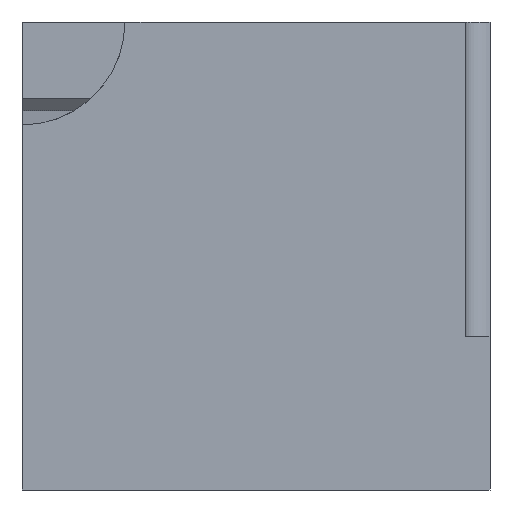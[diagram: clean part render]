
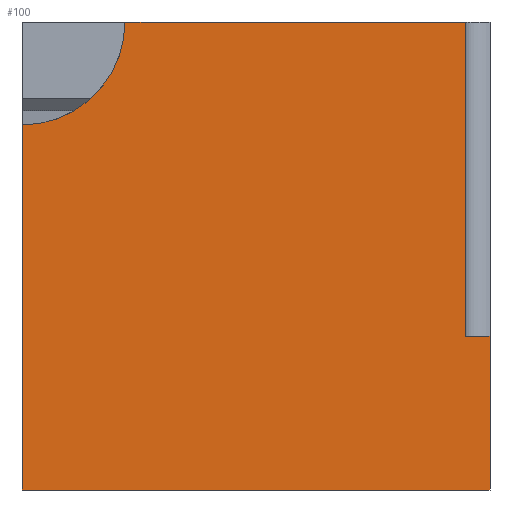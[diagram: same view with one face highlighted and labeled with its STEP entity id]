
A CAD part, front view. The second image highlights one B-rep face of the part: STEP entity #100.
In plain terms, the highlighted planar face has unit normal (0, -1, 0).
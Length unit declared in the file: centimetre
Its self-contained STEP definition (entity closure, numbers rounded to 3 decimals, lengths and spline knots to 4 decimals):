
#24 = VERTEX_POINT ( 'NONE', #357 ) ;
#41 = LINE ( 'NONE', #297, #165 ) ;
#43 = DIRECTION ( 'NONE',  ( 0., 1., 0. ) ) ;
#45 = CARTESIAN_POINT ( 'NONE',  ( 1000., 0., 328.0001 ) ) ;
#49 = DIRECTION ( 'NONE',  ( 0., 0., -1. ) ) ;
#59 = VERTEX_POINT ( 'NONE', #621 ) ;
#63 = EDGE_CURVE ( 'NONE', #24, #460, #41, .T. ) ;
#100 = ADVANCED_FACE ( 'NONE', ( #765 ), #824, .F. ) ;
#148 = LINE ( 'NONE', #669, #710 ) ;
#156 = CIRCLE ( 'NONE', #260, 220.0587 ) ;
#165 = VECTOR ( 'NONE', #685, 100. ) ;
#170 = LINE ( 'NONE', #248, #814 ) ;
#179 = DIRECTION ( 'NONE',  ( 0., 0., 1. ) ) ;
#191 = ORIENTED_EDGE ( 'NONE', *, *, #356, .F. ) ;
#223 = ORIENTED_EDGE ( 'NONE', *, *, #836, .T. ) ;
#239 = LINE ( 'NONE', #424, #316 ) ;
#248 = CARTESIAN_POINT ( 'NONE',  ( 0., 0., 1000. ) ) ;
#260 = AXIS2_PLACEMENT_3D ( 'NONE', #583, #329, #523 ) ;
#276 = ORIENTED_EDGE ( 'NONE', *, *, #781, .F. ) ;
#288 = CARTESIAN_POINT ( 'NONE',  ( 0., 0., 1000. ) ) ;
#297 = CARTESIAN_POINT ( 'NONE',  ( 0., 0., 0. ) ) ;
#316 = VECTOR ( 'NONE', #495, 100. ) ;
#321 = EDGE_CURVE ( 'NONE', #462, #394, #412, .T. ) ;
#322 = AXIS2_PLACEMENT_3D ( 'NONE', #288, #43, #701 ) ;
#329 = DIRECTION ( 'NONE',  ( 0., -1., 0. ) ) ;
#330 = EDGE_CURVE ( 'NONE', #462, #59, #148, .T. ) ;
#356 = EDGE_CURVE ( 'NONE', #739, #59, #170, .T. ) ;
#357 = CARTESIAN_POINT ( 'NONE',  ( 0., 0., 0. ) ) ;
#366 = CARTESIAN_POINT ( 'NONE',  ( 947.161, 0., 328.0001 ) ) ;
#394 = VERTEX_POINT ( 'NONE', #45 ) ;
#398 = ORIENTED_EDGE ( 'NONE', *, *, #528, .F. ) ;
#412 = LINE ( 'NONE', #559, #603 ) ;
#424 = CARTESIAN_POINT ( 'NONE',  ( 1000., 0., 1000. ) ) ;
#433 = LINE ( 'NONE', #637, #794 ) ;
#460 = VERTEX_POINT ( 'NONE', #496 ) ;
#462 = VERTEX_POINT ( 'NONE', #366 ) ;
#495 = DIRECTION ( 'NONE',  ( 0., 0., -1. ) ) ;
#496 = CARTESIAN_POINT ( 'NONE',  ( 1000., 0., 0. ) ) ;
#523 = DIRECTION ( 'NONE',  ( 0., 0., -1. ) ) ;
#526 = ORIENTED_EDGE ( 'NONE', *, *, #330, .T. ) ;
#528 = EDGE_CURVE ( 'NONE', #678, #739, #156, .T. ) ;
#559 = CARTESIAN_POINT ( 'NONE',  ( 0., 0., 328.0001 ) ) ;
#583 = CARTESIAN_POINT ( 'NONE',  ( 0., 0., 1000. ) ) ;
#601 = CARTESIAN_POINT ( 'NONE',  ( 0., 0., 779.9413 ) ) ;
#603 = VECTOR ( 'NONE', #813, 100. ) ;
#612 = EDGE_LOOP ( 'NONE', ( #785, #526, #191, #398, #223, #736, #276 ) ) ;
#621 = CARTESIAN_POINT ( 'NONE',  ( 947.161, 0., 1000. ) ) ;
#637 = CARTESIAN_POINT ( 'NONE',  ( 0., 0., 1000. ) ) ;
#669 = CARTESIAN_POINT ( 'NONE',  ( 947.161, 0., 328.0001 ) ) ;
#678 = VERTEX_POINT ( 'NONE', #601 ) ;
#685 = DIRECTION ( 'NONE',  ( 1., 0., 0. ) ) ;
#687 = CARTESIAN_POINT ( 'NONE',  ( 220.0587, 0., 1000. ) ) ;
#701 = DIRECTION ( 'NONE',  ( 0., 0., 1. ) ) ;
#710 = VECTOR ( 'NONE', #179, 100. ) ;
#736 = ORIENTED_EDGE ( 'NONE', *, *, #63, .T. ) ;
#739 = VERTEX_POINT ( 'NONE', #687 ) ;
#760 = DIRECTION ( 'NONE',  ( 1., 0., 0. ) ) ;
#765 = FACE_OUTER_BOUND ( 'NONE', #612, .T. ) ;
#781 = EDGE_CURVE ( 'NONE', #394, #460, #239, .T. ) ;
#785 = ORIENTED_EDGE ( 'NONE', *, *, #321, .F. ) ;
#794 = VECTOR ( 'NONE', #49, 100. ) ;
#813 = DIRECTION ( 'NONE',  ( 1., 0., 0. ) ) ;
#814 = VECTOR ( 'NONE', #760, 100. ) ;
#824 = PLANE ( 'NONE',  #322 ) ;
#836 = EDGE_CURVE ( 'NONE', #678, #24, #433, .T. ) ;
